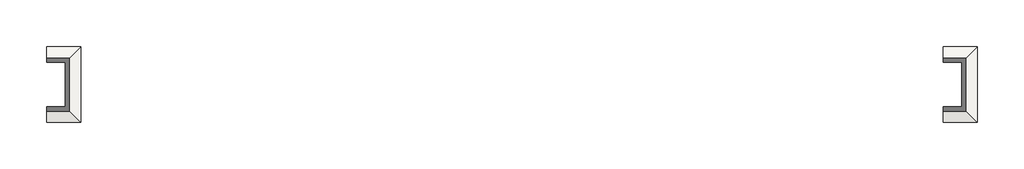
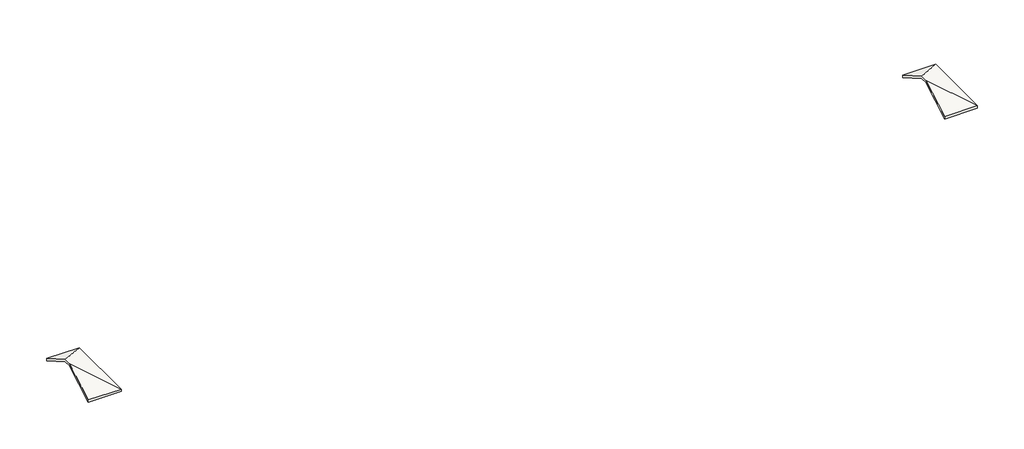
# One storey: 2 roofs.
"""IFC4 building model written with IfcOpenShell, lengths in millimetres."""

import ifcopenshell
import ifcopenshell.guid

model = None  # the IFC model being written
_history = None  # IfcOwnerHistory: only IFC2X3 demands one
_inside = {}  # id of a spatial element -> (the spatial element, [elements in it])
_under = {}  # id of a project, library or spatial element -> (it, [spatial elements below it])
_declared = {}  # id of a project -> (the project, [libraries it declares])
_typed = {}  # id of a type object -> (the type object, [elements of that type])
_made_of = {}  # id of a material, layer set ... -> (it, [elements and type objects made of it])


def new_model(schema):
    """Start an empty IFC model of exactly this schema.

    Asked for "IFC4X3", IfcOpenShell would pick the latest addendum, in which some entities
    have other attributes; the version numbers below select the first issue.
    IFC2X3 requires an IfcOwnerHistory on every rooted entity: one is made here for all.
    """
    global model, _history
    if schema == "IFC4X3":
        model = ifcopenshell.file(schema_version=(4, 3, 0, 0))
    else:
        model = ifcopenshell.file(schema=schema)
    _inside.clear()
    _under.clear()
    _declared.clear()
    _typed.clear()
    _made_of.clear()
    _history = None
    if model.schema == "IFC2X3":
        org = make("IfcOrganization", Name="unknown")
        user = make(
            "IfcPersonAndOrganization",
            ThePerson=make("IfcPerson", FamilyName="unknown"),
            TheOrganization=org,
        )
        app = make(
            "IfcApplication",
            ApplicationDeveloper=org,
            Version="unknown",
            ApplicationFullName="unknown",
            ApplicationIdentifier="unknown",
        )
        _history = make(
            "IfcOwnerHistory",
            OwningUser=user,
            OwningApplication=app,
            ChangeAction="ADDED",
            CreationDate=0,
        )
    return model


def make(cls, **values):
    """One entity of the class cls with the attributes given. An attribute that is None is left unset."""
    return model.create_entity(
        cls, **{name: value for name, value in values.items() if value is not None}
    )


def rooted(cls, **values):
    """An entity with a GlobalId (a new one), such as an element, a storey or a relation."""
    return make(cls, GlobalId=ifcopenshell.guid.new(), OwnerHistory=_history, **values)


def si_unit(unit_type, name, prefix=None):
    """IfcSIUnit, for example si_unit("LENGTHUNIT", "METRE", prefix="MILLI")."""
    return make("IfcSIUnit", UnitType=unit_type, Prefix=prefix, Name=name)


def assignment(units):
    """IfcUnitAssignment: the units of a project."""
    return None if units is None else make("IfcUnitAssignment", Units=units)


def point(xyz):
    """IfcCartesianPoint."""
    return None if xyz is None else make("IfcCartesianPoint", Coordinates=xyz)


def direction(xyz):
    """IfcDirection."""
    return None if xyz is None else make("IfcDirection", DirectionRatios=xyz)


def frame(location, z_axis=None, x_axis=None):
    """IfcAxis2Placement3D, a coordinate frame: its origin and axes. An axis left out is left unset."""
    return make(
        "IfcAxis2Placement3D",
        Location=point(location),
        Axis=direction(z_axis),
        RefDirection=direction(x_axis),
    )


def origin():
    """The frame at (0, 0, 0) with its axes left unset."""
    return frame((0.0, 0.0, 0.0))


def place(relative_to, where):
    """IfcLocalPlacement: puts the frame where relative to a parent placement (None: the world)."""
    return make(
        "IfcLocalPlacement", PlacementRelTo=relative_to, RelativePlacement=where
    )


def context(
    kind, dimensions, precision=None, world=None, true_north=None, identifier=None
):
    """IfcGeometricRepresentationContext, for example the 3D "Model" context."""
    return make(
        "IfcGeometricRepresentationContext",
        ContextIdentifier=identifier,
        ContextType=kind,
        CoordinateSpaceDimension=dimensions,
        Precision=precision,
        WorldCoordinateSystem=world,
        TrueNorth=true_north,
    )


def project(units=None, contexts=None):
    """IfcProject with its units and contexts."""
    return rooted(
        "IfcProject",
        Name="project",
        RepresentationContexts=contexts,
        UnitsInContext=assignment(units),
    )


def spatial(cls, under=None, at=None, **own):
    """A site, building, storey or space (cls), placed at a placement, below another one or the project."""
    s = rooted(cls, ObjectPlacement=at, **own)
    if under is not None:
        _under.setdefault(under.id(), (under, []))[1].append(s)
    return s


def faces_of(points, faces, orient=None, outer=None):
    """IfcFace entities. A face is a list of loops; a loop is a list of indices into points, from 0.

    orient and outer hold one flag for each loop. By default every Orientation is true, the
    first loop of a face is its IfcFaceOuterBound and the others are IfcFaceBound.
    """
    made = []
    for i, loops in enumerate(faces):
        bounds = []
        for j, loop in enumerate(loops):
            is_outer = j == 0 if outer is None else outer[i][j]
            bounds.append(
                make(
                    "IfcFaceOuterBound" if is_outer else "IfcFaceBound",
                    Bound=make("IfcPolyLoop", Polygon=[points[k] for k in loop]),
                    Orientation=True if orient is None else orient[i][j],
                )
            )
        made.append(make("IfcFace", Bounds=bounds))
    return made


def faceted_brep(points, faces, orient=None, outer=None, voids=None):
    """IfcFacetedBrep: a solid bounded by flat faces; with voids (closed shells), ...WithVoids."""
    shared = [point(p) for p in points]
    hull = make("IfcClosedShell", CfsFaces=faces_of(shared, faces, orient, outer))
    if voids is None:
        return make("IfcFacetedBrep", Outer=hull)
    return make(
        "IfcFacetedBrepWithVoids",
        Outer=hull,
        Voids=[
            make(cls, CfsFaces=faces_of(shared, fs, o, b)) for cls, fs, o, b in voids
        ],
    )


def shape(context_of_items, identifier, shape_type, items):
    """IfcShapeRepresentation: the items that make up one representation, for example the "Body"."""
    return make(
        "IfcShapeRepresentation",
        ContextOfItems=context_of_items,
        RepresentationIdentifier=identifier,
        RepresentationType=shape_type,
        Items=items,
    )


def made_of(thing, what):
    """Note that an element or type object is made of a material, layer set ...; save() writes the relation."""
    if what is not None:
        _made_of.setdefault(what.id(), (what, []))[1].append(thing)
    return thing


def element(
    cls,
    number,
    at=None,
    inside=None,
    cuts=None,
    type_object=None,
    material=None,
    context=None,
    identifier="Body",
    shape_type=None,
    held_by="IfcProductDefinitionShape",
    body=None,
    shapes=None,
    **own,
):
    """One element of the class cls, such as IfcWall. Its Tag is "e" and its number.

    at: its placement. inside: the storey or other place that contains it. cuts: it is an
    opening in that element (IfcRelVoidsElement). A single representation is given by context,
    identifier, shape_type and body (its items); several are given by shapes. held_by: the class
    of the entity that holds the representations. save() writes the other relations.
    """
    e = rooted(cls, Tag="e%d" % number, ObjectPlacement=at, **own)
    if body is not None:
        shapes = [shape(context, identifier, shape_type, body)]
    if shapes is not None:
        e.Representation = make(held_by, Representations=shapes)
    if inside is not None:
        _inside.setdefault(inside.id(), (inside, []))[1].append(e)
    if cuts is not None:
        rooted(
            "IfcRelVoidsElement", RelatingBuildingElement=cuts, RelatedOpeningElement=e
        )
    if type_object is not None:
        _typed.setdefault(type_object.id(), (type_object, []))[1].append(e)
    return made_of(e, material)


def aggregate(whole, parts):
    """IfcRelAggregates: a whole, such as a stair, and the parts it consists of."""
    return rooted("IfcRelAggregates", RelatingObject=whole, RelatedObjects=parts)


def save(model, path):
    """Write the relations noted so far, then the file.

    IfcRelAggregates (storeys below a building ...), IfcRelContainedInSpatialStructure (elements
    in a storey), IfcRelDefinesByType, IfcRelAssociatesMaterial and IfcRelDeclares: one each for
    every whole, place, type object, material and project.
    """
    for whole, parts in _under.values():
        aggregate(whole, parts)
    for where, things in _inside.values():
        rooted(
            "IfcRelContainedInSpatialStructure",
            RelatedElements=things,
            RelatingStructure=where,
        )
    for kind, things in _typed.values():
        rooted("IfcRelDefinesByType", RelatedObjects=things, RelatingType=kind)
    for what, things in _made_of.values():
        rooted("IfcRelAssociatesMaterial", RelatedObjects=things, RelatingMaterial=what)
    for by, libraries in _declared.values():
        rooted("IfcRelDeclares", RelatingContext=by, RelatedDefinitions=libraries)
    model.write(path)


model = new_model("IFC4")

# Units and contexts
model_context = context("Model", 3, world=origin())
ifc_project = project(units=[si_unit("LENGTHUNIT", "METRE", prefix="MILLI")], contexts=[model_context])

# Site, building, storey
site = spatial("IfcSite", under=ifc_project)
building = spatial("IfcBuilding", under=site)
storey = spatial("IfcBuildingStorey", under=building, Name="Уровень 2", Elevation=4000.0)

# Roofs
placement = place(None, origin())
element("IfcRoof", 1, ObjectType="Типовая крыша - 300мм", at=placement, inside=storey, context=model_context, shape_type="Brep", body=[
    faceted_brep([(-7074.1639392, 8980.7896649, 6655.8112383), (-7074.1639392, 13580.7896649, 4000.0), (-2474.1639392, 13580.7896649, 4000.0), (-2474.1639392, 3446.1546779, 4000.0), (-7074.1639392, 3446.1546779, 4000.0), (-7074.1639392, 8046.1546779, 6655.8112383), (-7074.1639392, 13580.7896649, 4346.4101615), (-7074.1639392, 8980.7896649, 7002.2213998), (-2474.1639392, 13580.7896649, 4346.4101615), (-7074.1639392, 3446.1546779, 4346.4101615), (-2474.1639392, 3446.1546779, 4346.4101615), (-7074.1639392, 8046.1546779, 7002.2213998)], [[[0, 1, 2]], [[3, 4, 5]], [[3, 5, 0, 2]], [[6, 7, 8]], [[9, 10, 11]], [[10, 8, 7, 11]], [[1, 6, 8, 2]], [[3, 10, 9, 4]], [[2, 8, 10, 3]], [[9, 11, 7, 6, 1, 0, 5, 4]]]),
])
element("IfcRoof", 2, ObjectType="Типовая крыша - 300мм", at=placement, inside=storey, context=model_context, shape_type="Brep", body=[
    faceted_brep([(112925.8360608, 8980.7896649, 6655.8112383), (112925.8360608, 13580.7896649, 4000.0), (117525.8360608, 13580.7896649, 4000.0), (117525.8360608, 3446.1546779, 4000.0), (112925.8360608, 3446.1546779, 4000.0), (112925.8360608, 8046.1546779, 6655.8112383), (112925.8360608, 13580.7896649, 4346.4101615), (112925.8360608, 8980.7896649, 7002.2213998), (117525.8360608, 13580.7896649, 4346.4101615), (112925.8360608, 3446.1546779, 4346.4101615), (117525.8360608, 3446.1546779, 4346.4101615), (112925.8360608, 8046.1546779, 7002.2213998)], [[[0, 1, 2]], [[3, 4, 5]], [[3, 5, 0, 2]], [[6, 7, 8]], [[9, 10, 11]], [[10, 8, 7, 11]], [[1, 6, 8, 2]], [[3, 10, 9, 4]], [[2, 8, 10, 3]], [[9, 11, 7, 6, 1, 0, 5, 4]]]),
])

save(model, "model.ifc")
